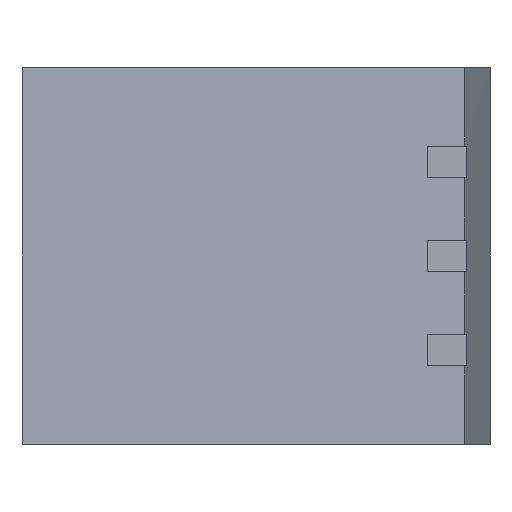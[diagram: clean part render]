
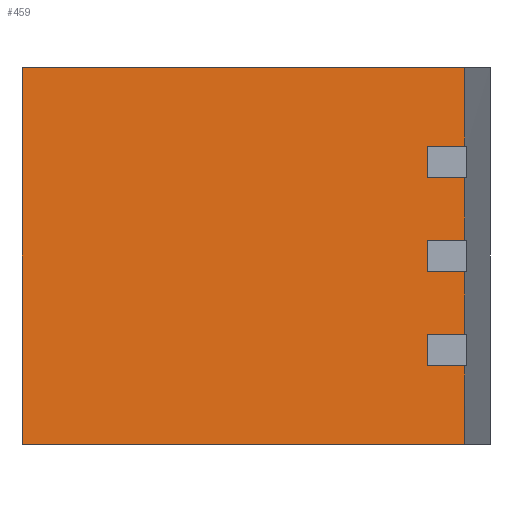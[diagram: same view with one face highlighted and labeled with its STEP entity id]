
A CAD part, left-side view. The second image highlights one B-rep face of the part: STEP entity #459.
In plain terms, the highlighted planar face has unit normal (-0.994, -0.111, 0).
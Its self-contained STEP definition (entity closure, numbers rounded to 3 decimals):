
#237 = VERTEX_POINT( '', #671 );
#253 = VERTEX_POINT( '', #688 );
#255 = VERTEX_POINT( '', #690 );
#301 = EDGE_CURVE( '', #361, #255, #743, .T. );
#313 = VERTEX_POINT( '', #755 );
#343 = EDGE_CURVE( '', #493, #359, #789, .T. );
#359 = VERTEX_POINT( '', #807 );
#361 = VERTEX_POINT( '', #809 );
#373 = VERTEX_POINT( '', #821 );
#385 = VERTEX_POINT( '', #833 );
#401 = VERTEX_POINT( '', #850 );
#407 = EDGE_CURVE( '', #253, #577, #857, .T. );
#429 = EDGE_CURVE( '', #255, #577, #883, .T. );
#437 = EDGE_CURVE( '', #473, #507, #892, .T. );
#459 = ADVANCED_FACE( '', ( #916 ), #917, .T. );
#473 = VERTEX_POINT( '', #932 );
#493 = VERTEX_POINT( '', #954 );
#507 = VERTEX_POINT( '', #968 );
#513 = EDGE_CURVE( '', #313, #493, #974, .T. );
#529 = EDGE_CURVE( '', #385, #633, #991, .T. );
#531 = EDGE_CURVE( '', #585, #359, #993, .T. );
#549 = EDGE_CURVE( '', #373, #633, #1013, .T. );
#553 = VERTEX_POINT( '', #1017 );
#555 = EDGE_CURVE( '', #553, #237, #1019, .T. );
#557 = EDGE_CURVE( '', #237, #401, #1021, .T. );
#575 = EDGE_CURVE( '', #373, #361, #1041, .T. );
#577 = VERTEX_POINT( '', #1043 );
#585 = VERTEX_POINT( '', #1052 );
#597 = EDGE_CURVE( '', #253, #313, #1065, .T. );
#599 = EDGE_CURVE( '', #473, #401, #1067, .T. );
#603 = EDGE_CURVE( '', #507, #385, #1071, .T. );
#633 = VERTEX_POINT( '', #1106 );
#643 = EDGE_CURVE( '', #553, #585, #1117, .T. );
#671 = CARTESIAN_POINT( '', ( -5., 0., -12. ) );
#688 = CARTESIAN_POINT( '', ( -1.847, -28.179, 5. ) );
#690 = CARTESIAN_POINT( '', ( -2.111, -25.818, 1. ) );
#743 = LINE( '', #1238, #1239 );
#755 = CARTESIAN_POINT( '', ( -2.111, -25.818, 5. ) );
#789 = LINE( '', #1336, #1337 );
#807 = CARTESIAN_POINT( '', ( -1.847, -28.179, 7. ) );
#809 = CARTESIAN_POINT( '', ( -2.111, -25.818, -1. ) );
#821 = CARTESIAN_POINT( '', ( -1.847, -28.179, -1. ) );
#833 = CARTESIAN_POINT( '', ( -2.111, -25.818, -5. ) );
#850 = CARTESIAN_POINT( '', ( -1.847, -28.179, -12. ) );
#857 = LINE( '', #1434, #1435 );
#883 = LINE( '', #1466, #1467 );
#892 = LINE( '', #1478, #1479 );
#916 = FACE_OUTER_BOUND( '', #1512, .T. );
#917 = PLANE( '', #1513 );
#932 = CARTESIAN_POINT( '', ( -1.847, -28.179, -7. ) );
#954 = CARTESIAN_POINT( '', ( -2.111, -25.818, 7. ) );
#968 = CARTESIAN_POINT( '', ( -2.111, -25.818, -7. ) );
#974 = LINE( '', #1594, #1595 );
#991 = LINE( '', #1622, #1623 );
#993 = LINE( '', #1626, #1627 );
#1013 = LINE( '', #1649, #1650 );
#1017 = CARTESIAN_POINT( '', ( -5., 0., 12. ) );
#1019 = LINE( '', #1657, #1658 );
#1021 = LINE( '', #1661, #1662 );
#1041 = LINE( '', #1685, #1686 );
#1043 = CARTESIAN_POINT( '', ( -1.847, -28.179, 1. ) );
#1052 = CARTESIAN_POINT( '', ( -1.847, -28.179, 12. ) );
#1065 = LINE( '', #1715, #1716 );
#1067 = LINE( '', #1719, #1720 );
#1071 = LINE( '', #1726, #1727 );
#1106 = CARTESIAN_POINT( '', ( -1.847, -28.179, -5. ) );
#1117 = LINE( '', #1789, #1790 );
#1238 = CARTESIAN_POINT( '', ( -2.111, -25.818, 6.5 ) );
#1239 = VECTOR( '', #1900, 1. );
#1336 = CARTESIAN_POINT( '', ( -4.969, -0.276, 7. ) );
#1337 = VECTOR( '', #1939, 1. );
#1434 = CARTESIAN_POINT( '', ( -1.847, -28.179, 12. ) );
#1435 = VECTOR( '', #1998, 1. );
#1466 = CARTESIAN_POINT( '', ( -4.969, -0.276, 1. ) );
#1467 = VECTOR( '', #2060, 1. );
#1478 = CARTESIAN_POINT( '', ( -4.969, -0.276, -7. ) );
#1479 = VECTOR( '', #2076, 1. );
#1512 = EDGE_LOOP( '', ( #2100, #2101, #2102, #2103, #2104, #2105, #2106, #2107, #2108, #2109, #2110, #2111, #2112, #2113, #2114, #2115 ) );
#1513 = AXIS2_PLACEMENT_3D( '', #2116, #2117, #2118 );
#1594 = CARTESIAN_POINT( '', ( -2.111, -25.818, 9.5 ) );
#1595 = VECTOR( '', #2165, 1. );
#1622 = CARTESIAN_POINT( '', ( -4.969, -0.276, -5. ) );
#1623 = VECTOR( '', #2181, 1. );
#1626 = CARTESIAN_POINT( '', ( -1.847, -28.179, 12. ) );
#1627 = VECTOR( '', #2182, 1. );
#1649 = CARTESIAN_POINT( '', ( -1.847, -28.179, 12. ) );
#1650 = VECTOR( '', #2213, 1. );
#1657 = CARTESIAN_POINT( '', ( -5., 0., 12. ) );
#1658 = VECTOR( '', #2214, 1. );
#1661 = CARTESIAN_POINT( '', ( -5., 0., -12. ) );
#1662 = VECTOR( '', #2215, 1. );
#1685 = CARTESIAN_POINT( '', ( -4.969, -0.276, -1. ) );
#1686 = VECTOR( '', #2232, 1. );
#1715 = CARTESIAN_POINT( '', ( -4.969, -0.276, 5. ) );
#1716 = VECTOR( '', #2250, 1. );
#1719 = CARTESIAN_POINT( '', ( -1.847, -28.179, 12. ) );
#1720 = VECTOR( '', #2251, 1. );
#1726 = CARTESIAN_POINT( '', ( -2.111, -25.818, 3.5 ) );
#1727 = VECTOR( '', #2255, 1. );
#1789 = CARTESIAN_POINT( '', ( -5., 0., 12. ) );
#1790 = VECTOR( '', #2314, 1. );
#1900 = DIRECTION( '', ( 0., 0., 1. ) );
#1939 = DIRECTION( '', ( 0.111, -0.994, 0. ) );
#1998 = DIRECTION( '', ( 0., 0., -1. ) );
#2060 = DIRECTION( '', ( 0.111, -0.994, 0. ) );
#2076 = DIRECTION( '', ( -0.111, 0.994, 0. ) );
#2100 = ORIENTED_EDGE( '', *, *, #529, .T. );
#2101 = ORIENTED_EDGE( '', *, *, #549, .F. );
#2102 = ORIENTED_EDGE( '', *, *, #575, .T. );
#2103 = ORIENTED_EDGE( '', *, *, #301, .T. );
#2104 = ORIENTED_EDGE( '', *, *, #429, .T. );
#2105 = ORIENTED_EDGE( '', *, *, #407, .F. );
#2106 = ORIENTED_EDGE( '', *, *, #597, .T. );
#2107 = ORIENTED_EDGE( '', *, *, #513, .T. );
#2108 = ORIENTED_EDGE( '', *, *, #343, .T. );
#2109 = ORIENTED_EDGE( '', *, *, #531, .F. );
#2110 = ORIENTED_EDGE( '', *, *, #643, .F. );
#2111 = ORIENTED_EDGE( '', *, *, #555, .T. );
#2112 = ORIENTED_EDGE( '', *, *, #557, .T. );
#2113 = ORIENTED_EDGE( '', *, *, #599, .F. );
#2114 = ORIENTED_EDGE( '', *, *, #437, .T. );
#2115 = ORIENTED_EDGE( '', *, *, #603, .T. );
#2116 = CARTESIAN_POINT( '', ( -5., 0., 12. ) );
#2117 = DIRECTION( '', ( -0.994, -0.111, 0. ) );
#2118 = DIRECTION( '', ( -0.111, 0.994, 0. ) );
#2165 = DIRECTION( '', ( 0., 0., 1. ) );
#2181 = DIRECTION( '', ( 0.111, -0.994, 0. ) );
#2182 = DIRECTION( '', ( 0., 0., -1. ) );
#2213 = DIRECTION( '', ( 0., 0., -1. ) );
#2214 = DIRECTION( '', ( 0., 0., -1. ) );
#2215 = DIRECTION( '', ( 0.111, -0.994, 0. ) );
#2232 = DIRECTION( '', ( -0.111, 0.994, 0. ) );
#2250 = DIRECTION( '', ( -0.111, 0.994, 0. ) );
#2251 = DIRECTION( '', ( 0., 0., -1. ) );
#2255 = DIRECTION( '', ( 0., 0., 1. ) );
#2314 = DIRECTION( '', ( 0.111, -0.994, 0. ) );
